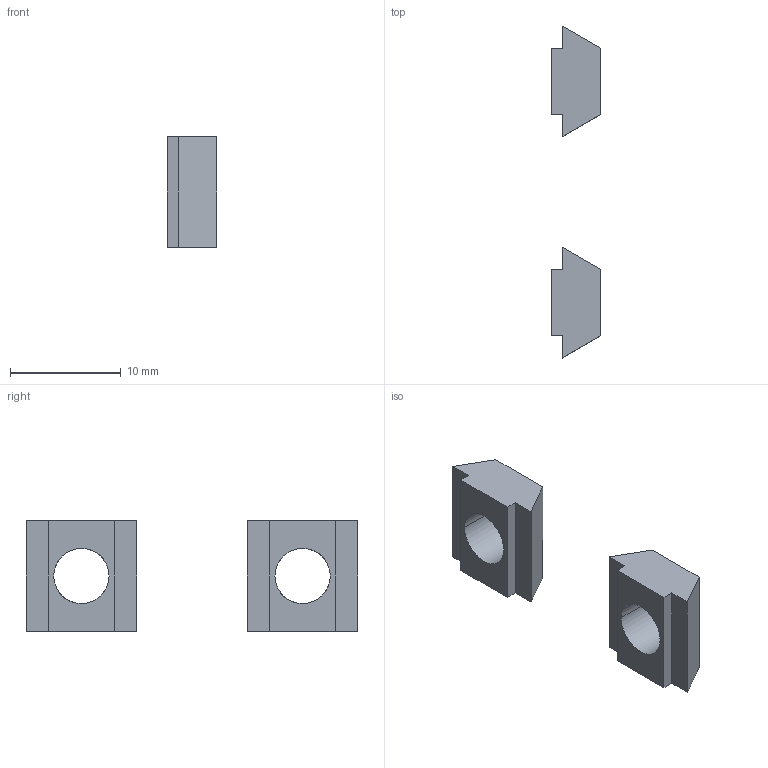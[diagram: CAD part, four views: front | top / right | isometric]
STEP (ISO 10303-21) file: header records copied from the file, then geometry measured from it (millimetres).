
FILE_DESCRIPTION(/* description */ (''),/* implementation_level */ '2;1');
FILE_NAME(/* name */ '5.y-cart#5.3#HNTE5-5',/* time_stamp */ '2014-12-01T20:13:20+01:00',/* author */ (''),/* organization */ (''),/* preprocessor_version */ 'ST-DEVELOPER v14',/* originating_system */ '',/* authorisation */ '');
FILE_SCHEMA (('AUTOMOTIVE_DESIGN'));
Length unit declared in the file: millimetre
Products named in the file (2): Document; tslot nut, pre, M5
Assembly tree (2 placements, depth 2):
  Document
    tslot nut, pre, M5  x2
Bounding box: 4.5 x 30 x 10 mm (x, y, z)
Volume: 503.1 mm3; surface area: 719.9 mm2
Topology: 2 solids, 2 shells, 24 faces, 60 edges, 40 vertices
Faces by surface type: plane 20, bspline 4
Entity records: 810 total; most frequent: CARTESIAN_POINT 331, B_SPLINE_CURVE_WITH_KNOTS 84, ORIENTED_EDGE 60, PCURVE 60, DEFINITIONAL_REPRESENTATION 60, SURFACE_CURVE 30, EDGE_CURVE 30, VERTEX_POINT 20
